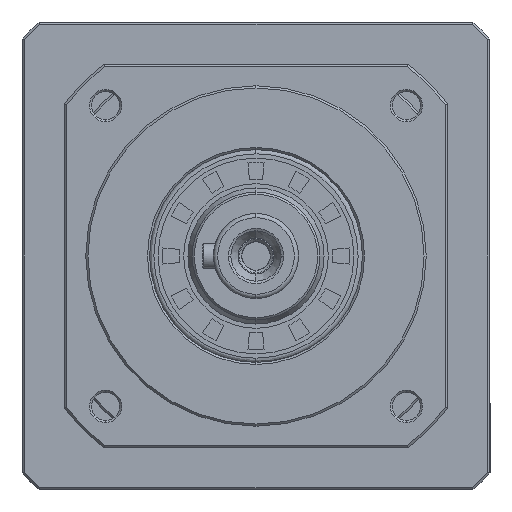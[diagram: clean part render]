
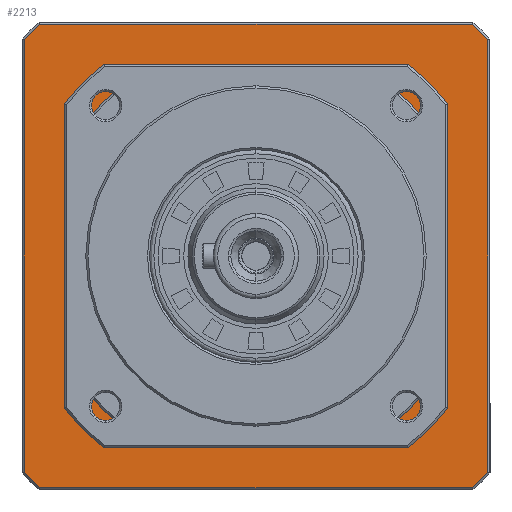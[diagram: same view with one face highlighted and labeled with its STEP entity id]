
A CAD part, left-side view. The second image highlights one B-rep face of the part: STEP entity #2213.
In plain terms, the highlighted planar face has unit normal (-1, 0, 0).
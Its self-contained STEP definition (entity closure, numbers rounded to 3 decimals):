
#1516 = ORIENTED_EDGE ( 'NONE', *, *, #12234, .F. ) ;
#1636 = DIRECTION ( 'NONE',  ( 0., 0., -1. ) ) ;
#2213 = ADVANCED_FACE ( 'NONE', ( #91501, #64695 ), #85672, .F. ) ;
#2530 = LINE ( 'NONE', #36066, #24633 ) ;
#2945 = VERTEX_POINT ( 'NONE', #86834 ) ;
#3835 = CIRCLE ( 'NONE', #74149, 74.5 ) ;
#4871 = CARTESIAN_POINT ( 'NONE',  ( 88.5, 0., 0. ) ) ;
#5713 = CARTESIAN_POINT ( 'NONE',  ( 88.5, -23.875, 44.5 ) ) ;
#6351 = DIRECTION ( 'NONE',  ( 0., 0., 1. ) ) ;
#6888 = VERTEX_POINT ( 'NONE', #48249 ) ;
#7492 = AXIS2_PLACEMENT_3D ( 'NONE', #61218, #77205, #83704 ) ;
#7905 = ORIENTED_EDGE ( 'NONE', *, *, #59052, .T. ) ;
#10712 = VECTOR ( 'NONE', #81893, 1000. ) ;
#10868 = VERTEX_POINT ( 'NONE', #19418 ) ;
#11594 = VECTOR ( 'NONE', #51909, 1000. ) ;
#12234 = EDGE_CURVE ( 'NONE', #21595, #39927, #90932, .T. ) ;
#12259 = CIRCLE ( 'NONE', #82936, 50.5 ) ;
#14218 = EDGE_CURVE ( 'NONE', #72223, #21595, #80102, .T. ) ;
#14546 = DIRECTION ( 'NONE',  ( 1., 0., 0. ) ) ;
#14619 = VECTOR ( 'NONE', #83465, 1000. ) ;
#15067 = DIRECTION ( 'NONE',  ( 1., 0., 0. ) ) ;
#15944 = DIRECTION ( 'NONE',  ( 0., 0., -1. ) ) ;
#17713 = ORIENTED_EDGE ( 'NONE', *, *, #84994, .T. ) ;
#19418 = CARTESIAN_POINT ( 'NONE',  ( 88.5, 23.875, -44.5 ) ) ;
#20427 = DIRECTION ( 'NONE',  ( 0., 0., 1. ) ) ;
#20466 = DIRECTION ( 'NONE',  ( 0., 0., -1. ) ) ;
#21089 = EDGE_CURVE ( 'NONE', #2945, #67410, #40732, .T. ) ;
#21306 = CARTESIAN_POINT ( 'NONE',  ( 88.5, -54.5, -50.794 ) ) ;
#21365 = EDGE_CURVE ( 'NONE', #10868, #72223, #31416, .T. ) ;
#21595 = VERTEX_POINT ( 'NONE', #54451 ) ;
#21740 = CARTESIAN_POINT ( 'NONE',  ( 88.5, -50.794, -54.5 ) ) ;
#22523 = AXIS2_PLACEMENT_3D ( 'NONE', #41194, #62904, #93174 ) ;
#23215 = ORIENTED_EDGE ( 'NONE', *, *, #66561, .F. ) ;
#24633 = VECTOR ( 'NONE', #20466, 1000. ) ;
#24768 = DIRECTION ( 'NONE',  ( -1., 0., 0. ) ) ;
#26373 = EDGE_CURVE ( 'NONE', #85921, #58797, #3835, .T. ) ;
#28505 = AXIS2_PLACEMENT_3D ( 'NONE', #45505, #67547, #90332 ) ;
#28846 = CARTESIAN_POINT ( 'NONE',  ( 88.5, 50.794, 54.5 ) ) ;
#29619 = CARTESIAN_POINT ( 'NONE',  ( 88.5, 0., -54.5 ) ) ;
#29811 = LINE ( 'NONE', #78025, #69258 ) ;
#30354 = EDGE_CURVE ( 'NONE', #95016, #6888, #2530, .T. ) ;
#31416 = LINE ( 'NONE', #81514, #11594 ) ;
#32180 = LINE ( 'NONE', #88196, #56533 ) ;
#35901 = ORIENTED_EDGE ( 'NONE', *, *, #21089, .T. ) ;
#36066 = CARTESIAN_POINT ( 'NONE',  ( 88.5, 44.5, 0. ) ) ;
#36418 = CARTESIAN_POINT ( 'NONE',  ( 88.5, -44.5, 23.875 ) ) ;
#36878 = DIRECTION ( 'NONE',  ( 0., 0., -1. ) ) ;
#37026 = EDGE_LOOP ( 'NONE', ( #17713, #77007, #56293, #23215, #57003, #1516, #50152, #85028 ) ) ;
#37395 = DIRECTION ( 'NONE',  ( 1., 0., 0. ) ) ;
#37507 = LINE ( 'NONE', #29619, #10712 ) ;
#37680 = AXIS2_PLACEMENT_3D ( 'NONE', #4871, #14546, #6351 ) ;
#39305 = CARTESIAN_POINT ( 'NONE',  ( 88.5, 0., 0. ) ) ;
#39927 = VERTEX_POINT ( 'NONE', #36418 ) ;
#40179 = CARTESIAN_POINT ( 'NONE',  ( 88.5, -54.5, 50.794 ) ) ;
#40732 = CIRCLE ( 'NONE', #28505, 74.5 ) ;
#41194 = CARTESIAN_POINT ( 'NONE',  ( 88.5, -54.5, 54.5 ) ) ;
#42959 = CARTESIAN_POINT ( 'NONE',  ( 88.5, 44.5, 23.875 ) ) ;
#44298 = EDGE_CURVE ( 'NONE', #90720, #78253, #93392, .T. ) ;
#44426 = VECTOR ( 'NONE', #20427, 1000. ) ;
#44866 = CARTESIAN_POINT ( 'NONE',  ( 88.5, 0., 0. ) ) ;
#45036 = ORIENTED_EDGE ( 'NONE', *, *, #50910, .T. ) ;
#45505 = CARTESIAN_POINT ( 'NONE',  ( 88.5, 0., 0. ) ) ;
#45716 = CARTESIAN_POINT ( 'NONE',  ( 88.5, -50.794, 54.5 ) ) ;
#47176 = LINE ( 'NONE', #75358, #14619 ) ;
#48249 = CARTESIAN_POINT ( 'NONE',  ( 88.5, 44.5, -23.875 ) ) ;
#48424 = VERTEX_POINT ( 'NONE', #66867 ) ;
#49379 = CIRCLE ( 'NONE', #68892, 74.5 ) ;
#50152 = ORIENTED_EDGE ( 'NONE', *, *, #14218, .F. ) ;
#50653 = VERTEX_POINT ( 'NONE', #88708 ) ;
#50910 = EDGE_CURVE ( 'NONE', #66788, #50653, #49379, .T. ) ;
#51909 = DIRECTION ( 'NONE',  ( 0., -1., 0. ) ) ;
#53612 = CIRCLE ( 'NONE', #37680, 50.5 ) ;
#53890 = DIRECTION ( 'NONE',  ( -1., 0., 0. ) ) ;
#54451 = CARTESIAN_POINT ( 'NONE',  ( 88.5, -44.5, -23.875 ) ) ;
#56293 = ORIENTED_EDGE ( 'NONE', *, *, #71868, .T. ) ;
#56533 = VECTOR ( 'NONE', #36878, 1000. ) ;
#57003 = ORIENTED_EDGE ( 'NONE', *, *, #88291, .T. ) ;
#57911 = AXIS2_PLACEMENT_3D ( 'NONE', #39305, #53890, #1636 ) ;
#58664 = VERTEX_POINT ( 'NONE', #5713 ) ;
#58797 = VERTEX_POINT ( 'NONE', #21306 ) ;
#59052 = EDGE_CURVE ( 'NONE', #78253, #66788, #29811, .T. ) ;
#59354 = AXIS2_PLACEMENT_3D ( 'NONE', #44866, #37395, #68871 ) ;
#61218 = CARTESIAN_POINT ( 'NONE',  ( 88.5, 0., 0. ) ) ;
#62904 = DIRECTION ( 'NONE',  ( 1., 0., 0. ) ) ;
#63674 = EDGE_LOOP ( 'NONE', ( #35901, #64658, #89394, #65743, #77822, #7905, #45036, #74531 ) ) ;
#64658 = ORIENTED_EDGE ( 'NONE', *, *, #92872, .T. ) ;
#64695 = FACE_OUTER_BOUND ( 'NONE', #63674, .T. ) ;
#64722 = CARTESIAN_POINT ( 'NONE',  ( 88.5, 50.794, -54.5 ) ) ;
#65743 = ORIENTED_EDGE ( 'NONE', *, *, #69439, .T. ) ;
#66561 = EDGE_CURVE ( 'NONE', #58664, #48424, #47176, .T. ) ;
#66788 = VERTEX_POINT ( 'NONE', #28846 ) ;
#66867 = CARTESIAN_POINT ( 'NONE',  ( 88.5, 23.875, 44.5 ) ) ;
#66929 = CIRCLE ( 'NONE', #59354, 50.5 ) ;
#67025 = DIRECTION ( 'NONE',  ( 0., 0., 1. ) ) ;
#67410 = VERTEX_POINT ( 'NONE', #64722 ) ;
#67485 = VECTOR ( 'NONE', #69121, 1000. ) ;
#67547 = DIRECTION ( 'NONE',  ( -1., 0., 0. ) ) ;
#67742 = DIRECTION ( 'NONE',  ( 0., 0., -1. ) ) ;
#68871 = DIRECTION ( 'NONE',  ( 0., 0., 1. ) ) ;
#68892 = AXIS2_PLACEMENT_3D ( 'NONE', #83370, #89893, #67742 ) ;
#69121 = DIRECTION ( 'NONE',  ( 0., 0., 1. ) ) ;
#69258 = VECTOR ( 'NONE', #93602, 1000. ) ;
#69439 = EDGE_CURVE ( 'NONE', #58797, #90720, #93074, .T. ) ;
#71868 = EDGE_CURVE ( 'NONE', #95016, #48424, #66929, .T. ) ;
#72223 = VERTEX_POINT ( 'NONE', #86086 ) ;
#74149 = AXIS2_PLACEMENT_3D ( 'NONE', #76417, #24768, #15944 ) ;
#74531 = ORIENTED_EDGE ( 'NONE', *, *, #84820, .T. ) ;
#75358 = CARTESIAN_POINT ( 'NONE',  ( 88.5, 0., 44.5 ) ) ;
#76417 = CARTESIAN_POINT ( 'NONE',  ( 88.5, 0., 0. ) ) ;
#77007 = ORIENTED_EDGE ( 'NONE', *, *, #30354, .F. ) ;
#77205 = DIRECTION ( 'NONE',  ( -1., 0., 0. ) ) ;
#77822 = ORIENTED_EDGE ( 'NONE', *, *, #44298, .T. ) ;
#78025 = CARTESIAN_POINT ( 'NONE',  ( 88.5, 0., 54.5 ) ) ;
#78253 = VERTEX_POINT ( 'NONE', #45716 ) ;
#79554 = CARTESIAN_POINT ( 'NONE',  ( 88.5, -44.5, 0. ) ) ;
#80102 = CIRCLE ( 'NONE', #7492, 50.5 ) ;
#81514 = CARTESIAN_POINT ( 'NONE',  ( 88.5, 0., -44.5 ) ) ;
#81893 = DIRECTION ( 'NONE',  ( 0., -1., 0. ) ) ;
#82337 = CARTESIAN_POINT ( 'NONE',  ( 88.5, 0., 0. ) ) ;
#82936 = AXIS2_PLACEMENT_3D ( 'NONE', #82337, #15067, #67025 ) ;
#83370 = CARTESIAN_POINT ( 'NONE',  ( 88.5, 0., 0. ) ) ;
#83465 = DIRECTION ( 'NONE',  ( 0., 1., 0. ) ) ;
#83704 = DIRECTION ( 'NONE',  ( 0., 0., 1. ) ) ;
#84820 = EDGE_CURVE ( 'NONE', #50653, #2945, #32180, .T. ) ;
#84994 = EDGE_CURVE ( 'NONE', #10868, #6888, #12259, .T. ) ;
#85028 = ORIENTED_EDGE ( 'NONE', *, *, #21365, .F. ) ;
#85672 = PLANE ( 'NONE',  #22523 ) ;
#85921 = VERTEX_POINT ( 'NONE', #21740 ) ;
#86086 = CARTESIAN_POINT ( 'NONE',  ( 88.5, -23.875, -44.5 ) ) ;
#86834 = CARTESIAN_POINT ( 'NONE',  ( 88.5, 54.5, -50.794 ) ) ;
#88196 = CARTESIAN_POINT ( 'NONE',  ( 88.5, 54.5, 0. ) ) ;
#88291 = EDGE_CURVE ( 'NONE', #58664, #39927, #53612, .T. ) ;
#88708 = CARTESIAN_POINT ( 'NONE',  ( 88.5, 54.5, 50.794 ) ) ;
#89394 = ORIENTED_EDGE ( 'NONE', *, *, #26373, .T. ) ;
#89893 = DIRECTION ( 'NONE',  ( -1., 0., 0. ) ) ;
#90332 = DIRECTION ( 'NONE',  ( 0., 0., -1. ) ) ;
#90720 = VERTEX_POINT ( 'NONE', #40179 ) ;
#90932 = LINE ( 'NONE', #79554, #44426 ) ;
#91501 = FACE_BOUND ( 'NONE', #37026, .T. ) ;
#91587 = CARTESIAN_POINT ( 'NONE',  ( 88.5, -54.5, 0. ) ) ;
#92872 = EDGE_CURVE ( 'NONE', #67410, #85921, #37507, .T. ) ;
#93074 = LINE ( 'NONE', #91587, #67485 ) ;
#93174 = DIRECTION ( 'NONE',  ( 0., 0., -1. ) ) ;
#93392 = CIRCLE ( 'NONE', #57911, 74.5 ) ;
#93602 = DIRECTION ( 'NONE',  ( 0., 1., 0. ) ) ;
#95016 = VERTEX_POINT ( 'NONE', #42959 ) ;
